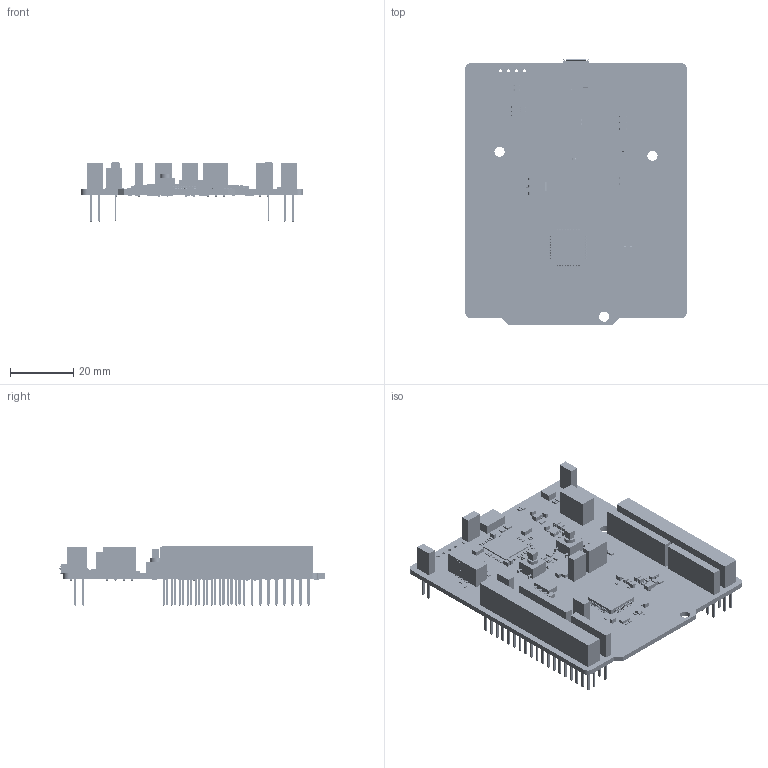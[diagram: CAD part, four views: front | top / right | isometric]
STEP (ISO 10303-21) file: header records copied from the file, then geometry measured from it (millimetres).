
FILE_DESCRIPTION(('Open CASCADE Model'),'2;1');
FILE_NAME('Open CASCADE Shape Model','2022-02-07T16:01:05',('Author'),( 'Open CASCADE'),'Open CASCADE STEP processor 6.8','Open CASCADE 6.8' ,'Unknown');
FILE_SCHEMA(('AUTOMOTIVE_DESIGN { 1 0 10303 214 1 1 1 1 }'));
Length unit declared in the file: millimetre
Products named in the file (345): PCB; Board; Open CASCADE STEP translator 6.8 2.1.1; SB41; R0603; 6750463392; Extruded; SB40; U13; LQFP64_10X10_P050; 6750754512; C51; C0603; 6750481392; C46; 6750478112; U14; SOT23-5L; 6751485392; JP7; TSW-102-07-G-S; _TSW-102-07-G-S_body; _T-1S6-07-TSW-1-07-2-S; 6750749712; JP3; JP8; Samtec-TSW-103-07-F-S; 6750750032; C16; C0402; 6750481232; C14; C27; 6751486272; C9; C13; C17; C8; C4; C12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
Assembly tree (815 placements, depth 4):
  PCB
    Board
      Open CASCADE STEP translator 6.8 2.1.1
    SB41
      R0603
      6750463392
        Extruded
    SB40
      R0603
      6750463392
        Extruded
    U13
      LQFP64_10X10_P050
      6750754512
        Extruded
    C51
      C0603
      6750481392
        Extruded
    C46
      C0603
      6750478112
        Extruded
    U14
      SOT23-5L
      6751485392
        Extruded
    JP7
      TSW-102-07-G-S
        _TSW-102-07-G-S_body
        _T-1S6-07-TSW-1-07-2-S
      6750749712
        Extruded
    JP3
      TSW-102-07-G-S
        _TSW-102-07-G-S_body
        _T-1S6-07-TSW-1-07-2-S
      6750749712
        Extruded
    JP8
      Samtec-TSW-103-07-F-S
      6750750032
        Extruded
    C16
      C0402
      6750481232
        Extruded
    C14
      C0402
      6750481232
        Extruded
    C27
      C0402
      6751486272
        Extruded
    C9
      C0402
      6750481232
        Extruded
    C13
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Bounding box: 70 x 83.65 x 18.67 mm (x, y, z)
Volume: 21595.7 mm3; surface area: 35286.7 mm2
Topology: 758 solids, 767 shells, 22822 faces, 55536 edges, 33731 vertices
Faces by surface type: plane 12557, cylinder 4515, bspline 4037, sphere 1236, revolution 304, torus 173
Full cylindrical faces by diameter (mm): 0.3 x1, 0.4 x2, 0.5 x1, 0.9 x2, 0.97 x2, 1 x105, 1.1 x32, 1.19 x2, 3.2 x3, 3.4 x2
Entity records: 245398 total; most frequent: CARTESIAN_POINT 49878, ORIENTED_EDGE 32376, DIRECTION 31360, EDGE_CURVE 16191, LINE 13800, VECTOR 13800, VERTEX_POINT 10278, AXIS2_PLACEMENT_3D 8776
